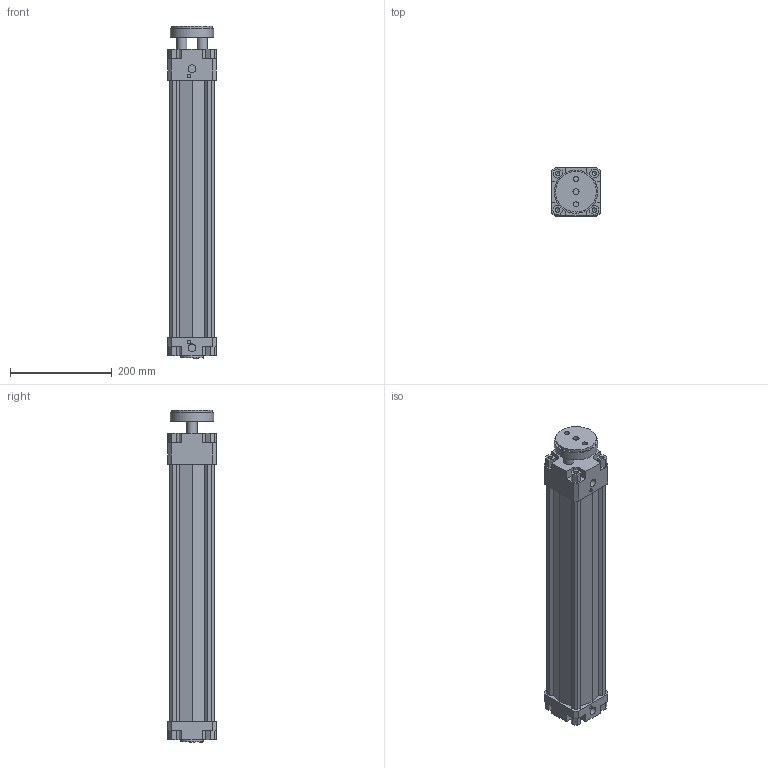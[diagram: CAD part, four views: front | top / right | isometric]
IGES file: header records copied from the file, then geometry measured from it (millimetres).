
Global section: file name: 134#_080_0450_01; native system: Autodesk Inventor 2014; preprocessor: unknown; author: A. Manieri; date: 20161006.165231; units: millimetre
Bounding box: 95 x 95 x 653 mm (x, y, z)
Volume: 2441928.3 mm3; surface area: 508313.3 mm2
Topology: 2 solids, 2 shells, 180 faces, 491 edges, 335 vertices
Faces by surface type: bspline 180
